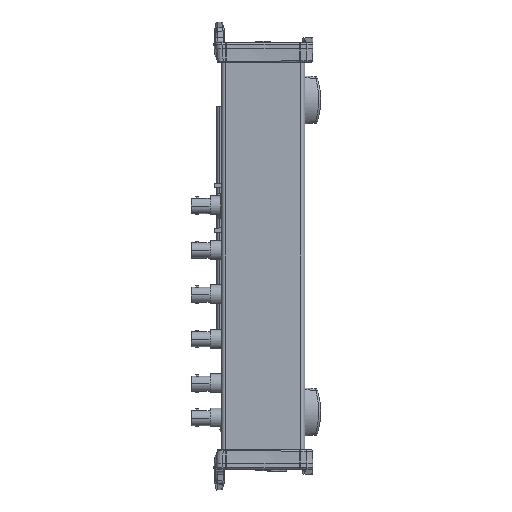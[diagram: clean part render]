
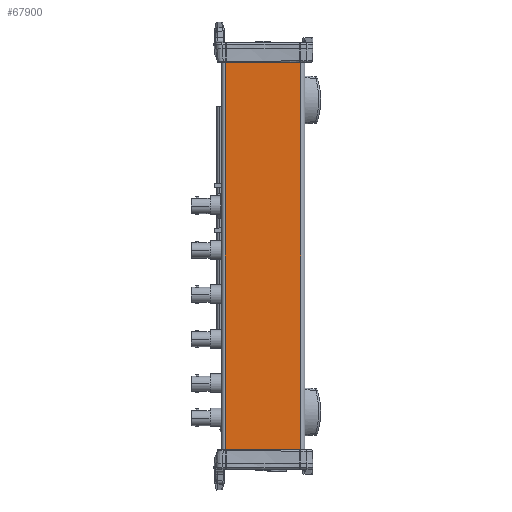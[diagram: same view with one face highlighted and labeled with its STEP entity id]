
A CAD part, left-side view. The second image highlights one B-rep face of the part: STEP entity #67900.
In plain terms, the highlighted planar face has unit normal (-1, 0, 0).
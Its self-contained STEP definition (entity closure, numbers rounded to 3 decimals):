
#12360=DIRECTION('',(0.,0.,-1.));
#12361=VECTOR('',#12360,10.247);
#12362=CARTESIAN_POINT('',(-3.365,0.1,5.123));
#12363=LINE('',#12362,#12361);
#13420=DIRECTION('',(0.,0.,-1.));
#13421=VECTOR('',#13420,10.247);
#13422=CARTESIAN_POINT('',(-3.365,1.97,5.123));
#13423=LINE('',#13422,#13421);
#13443=DIRECTION('',(0.,1.,0.));
#13444=VECTOR('',#13443,1.87);
#13445=CARTESIAN_POINT('',(-3.365,0.1,5.123));
#13446=LINE('',#13445,#13444);
#13447=DIRECTION('',(0.,-1.,0.));
#13448=VECTOR('',#13447,1.87);
#13449=CARTESIAN_POINT('',(-3.365,1.97,-5.123));
#13450=LINE('',#13449,#13448);
#50222=CARTESIAN_POINT('',(-3.365,1.97,-5.123));
#50223=CARTESIAN_POINT('',(-3.365,0.1,-5.123));
#50224=VERTEX_POINT('',#50222);
#50225=VERTEX_POINT('',#50223);
#51027=CARTESIAN_POINT('',(-3.365,0.1,5.123));
#51028=CARTESIAN_POINT('',(-3.365,1.97,5.123));
#51029=VERTEX_POINT('',#51027);
#51030=VERTEX_POINT('',#51028);
#67888=CARTESIAN_POINT('',(-3.365,2.07,-5.125));
#67889=DIRECTION('',(-1.,0.,0.));
#67890=DIRECTION('',(0.,-1.,0.));
#67891=AXIS2_PLACEMENT_3D('',#67888,#67889,#67890);
#67892=PLANE('',#67891);
#67893=ORIENTED_EDGE('',*,*,#67880,.F.);
#67894=ORIENTED_EDGE('',*,*,#66733,.T.);
#67896=ORIENTED_EDGE('',*,*,#67895,.F.);
#67897=ORIENTED_EDGE('',*,*,#67854,.F.);
#67898=EDGE_LOOP('',(#67893,#67894,#67896,#67897));
#67899=FACE_OUTER_BOUND('',#67898,.F.);
#67900=ADVANCED_FACE('',(#67899),#67892,.T.);
#66733=EDGE_CURVE('',#51029,#50225,#12363,.T.);
#67854=EDGE_CURVE('',#51030,#50224,#13423,.T.);
#67880=EDGE_CURVE('',#51029,#51030,#13446,.T.);
#67895=EDGE_CURVE('',#50224,#50225,#13450,.T.);
